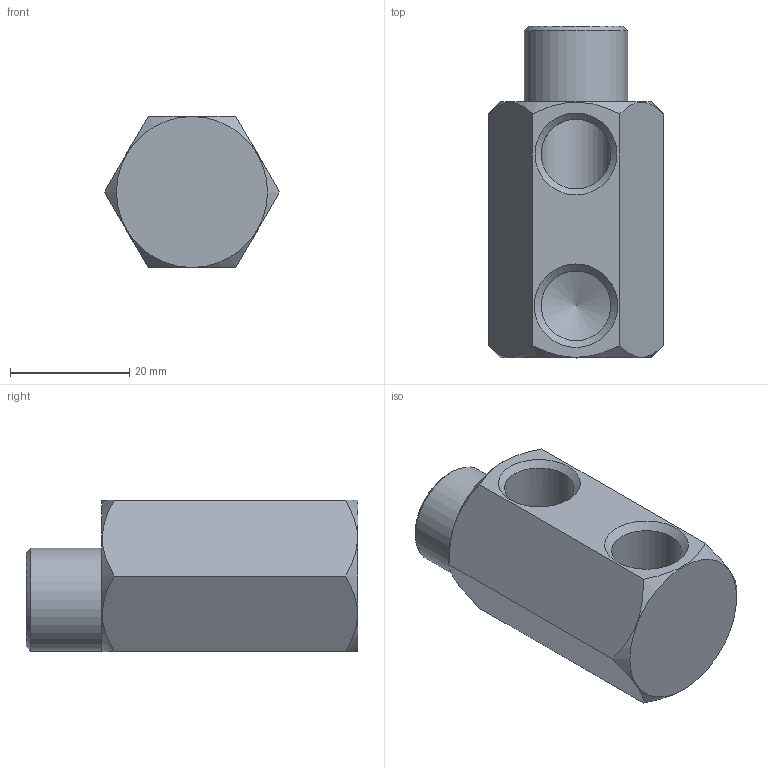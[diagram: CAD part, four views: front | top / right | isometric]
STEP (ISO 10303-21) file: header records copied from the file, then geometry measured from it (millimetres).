
FILE_DESCRIPTION(/* description */ (''),/* implementation_level */ '2;1');
FILE_NAME(/* name */ 'C:/Users/drich/Desktop/HF141H-4 v3.step',/* time_stamp */ '2019-11-18T13:48:55-06:00',/* author */ (''),/* organization */ (''),/* preprocessor_version */ 'ST-DEVELOPER v18',/* originating_system */ 'Autodesk Translation Framework v8.12.0.6',/* authorisation */ '');
FILE_SCHEMA (('AUTOMOTIVE_DESIGN { 1 0 10303 214 3 1 1 }'));
Length unit declared in the file: inch
Products named in the file (2): HF141H-4; HF141H-4_1
Assembly tree (1 placements, depth 2):
  HF141H-4
    HF141H-4_1
Bounding box: 29.33 x 55.56 x 25.4 mm (x, y, z)
Volume: 19499.3 mm3; surface area: 7671.6 mm2
Topology: 1 solids, 1 shells, 24 faces, 60 edges, 39 vertices
Faces by surface type: cone 10, plane 9, cylinder 5
Full cylindrical faces by diameter (mm): 6.909 x1, 11.668 x3, 17.272 x1
Entity records: 810 total; most frequent: CARTESIAN_POINT 198, ORIENTED_EDGE 118, DIRECTION 117, EDGE_CURVE 59, AXIS2_PLACEMENT_3D 49, VERTEX_POINT 39, EDGE_LOOP 30, FACE_OUTER_BOUND 24
